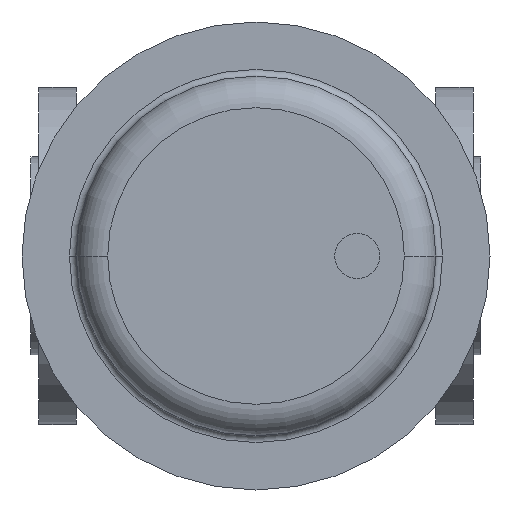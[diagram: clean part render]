
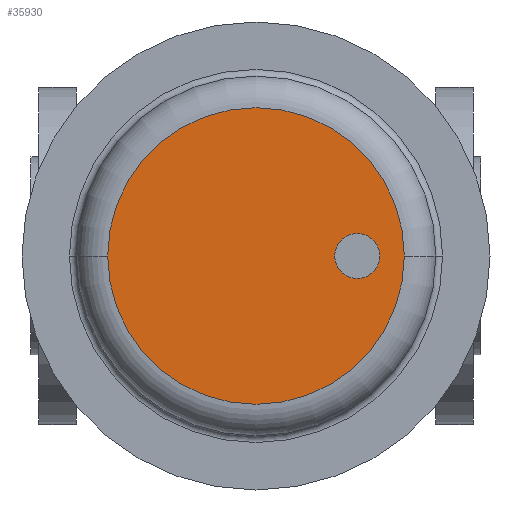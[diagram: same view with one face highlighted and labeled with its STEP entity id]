
A CAD part, front view. The second image highlights one B-rep face of the part: STEP entity #35930.
In plain terms, the highlighted planar face has unit normal (0, -1, 0).
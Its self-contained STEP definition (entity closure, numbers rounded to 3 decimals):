
#35380=CARTESIAN_POINT('',(34.07,-477.,0.));
#35390=VERTEX_POINT('',#35380);
#35490=CARTESIAN_POINT('',(165.93,-477.,0.));
#35500=VERTEX_POINT('',#35490);
#35530=CARTESIAN_POINT('',(100.,-477.,0.));
#35540=DIRECTION('',(0.,1.,0.));
#35550=DIRECTION('',(1.,0.,0.));
#35560=AXIS2_PLACEMENT_3D('',#35530,#35540,#35550);
#35570=CIRCLE('',#35560,65.93);
#35580=CARTESIAN_POINT('',(100.,-477.,65.93));
#35590=VERTEX_POINT('',#35580);
#35600=EDGE_CURVE('',#35590,#35500,#35570,.T.);
#35620=EDGE_CURVE('',#35390,#35590,#35570,.T.);
#35670=CARTESIAN_POINT('',(132.965,-477.,0.));
#35680=DIRECTION('',(0.,-1.,0.));
#35690=DIRECTION('',(-1.,0.,0.));
#35700=AXIS2_PLACEMENT_3D('',#35670,#35680,#35690);
#35710=PLANE('',#35700);
#35720=CARTESIAN_POINT('',(145.,-477.,0.));
#35730=DIRECTION('',(0.,1.,0.));
#35740=DIRECTION('',(1.,0.,0.));
#35750=AXIS2_PLACEMENT_3D('',#35720,#35730,#35740);
#35760=CIRCLE('',#35750,10.);
#35770=CARTESIAN_POINT('',(155.,-477.,0.));
#35780=VERTEX_POINT('',#35770);
#35790=CARTESIAN_POINT('',(135.,-477.,0.));
#35800=VERTEX_POINT('',#35790);
#35810=EDGE_CURVE('',#35780,#35800,#35760,.T.);
#35820=ORIENTED_EDGE('',*,*,#35810,.T.);
#35830=EDGE_CURVE('',#35800,#35780,#35760,.T.);
#35840=ORIENTED_EDGE('',*,*,#35830,.T.);
#35850=EDGE_LOOP('',(#35840,#35820));
#35860=FACE_BOUND('',#35850,.T.);
#35870=ORIENTED_EDGE('',*,*,#35600,.F.);
#35880=EDGE_CURVE('',#35500,#35390,#35570,.T.);
#35890=ORIENTED_EDGE('',*,*,#35880,.F.);
#35900=ORIENTED_EDGE('',*,*,#35620,.F.);
#35910=EDGE_LOOP('',(#35900,#35890,#35870));
#35920=FACE_OUTER_BOUND('',#35910,.T.);
#35930=ADVANCED_FACE('',(#35860,#35920),#35710,.T.);
